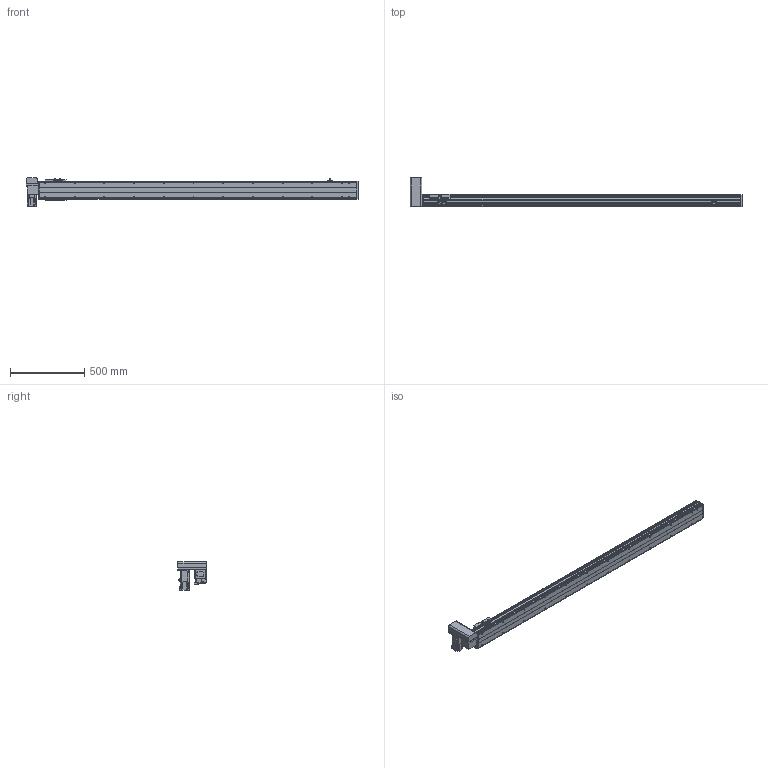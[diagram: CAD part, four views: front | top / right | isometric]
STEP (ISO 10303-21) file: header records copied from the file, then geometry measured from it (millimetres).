
FILE_DESCRIPTION( ( 'STEP AP214' ), '1' );
FILE_NAME( 'x:/temp/worker_27/temp/exporttempdir_6708_241_AQOoO/format_0/PBS120-P40-S1850-RU-T40-C1-N(0).stp', '2022-06-06T00:50:36', ( 'License CC BY-ND 4.0' ), ( 'CADENAS' ), ' ', 'PARTsolutions', ' ' );
FILE_SCHEMA( ( 'AUTOMOTIVE_DESIGN { 1 0 10303 214 1 1 1 1 }' ) );
Length unit declared in the file: millimetre
Products named in the file (7): PBS120-P40-S1850-RU-T40-C1-N(0); _PBS120-S1850()_body; _PBS120T-RU_motors; _T40-p1; _PBS120_sliser; _PBS120_plant; _PBS120_sensor
Assembly tree (8 placements, depth 2):
  PBS120-P40-S1850-RU-T40-C1-N(0)
    _PBS120-S1850()_body
    _PBS120T-RU_motors
    _T40-p1
    _PBS120_sliser
    _PBS120_plant
    _PBS120_sensor  x3
Bounding box: 2236 x 198 x 189.7 mm (x, y, z)
Volume: 8727793.6 mm3; surface area: 1774342.2 mm2
Topology: 8 solids, 8 shells, 852 faces, 2196 edges, 1411 vertices
Faces by surface type: plane 557, cylinder 237, cone 56, torus 2
Full cylindrical faces by diameter (mm): 2.459 x6, 3.242 x4, 4 x2, 4.134 x4, 4.5 x10, 4.917 x28, 5.5 x11, 6 x2, 6.6 x1, 7 x2, 8.5 x4, 9 x4, 12 x1, 14 x1, 30 x2, 40 x1, 50 x2
Entity records: 27996 total; most frequent: DIRECTION 3836, CARTESIAN_POINT 3749, ORIENTED_EDGE 3550, EDGE_CURVE 1775, AXIS2_PLACEMENT_3D 1304, LINE 1228, VECTOR 1228, VERTEX_POINT 1217
